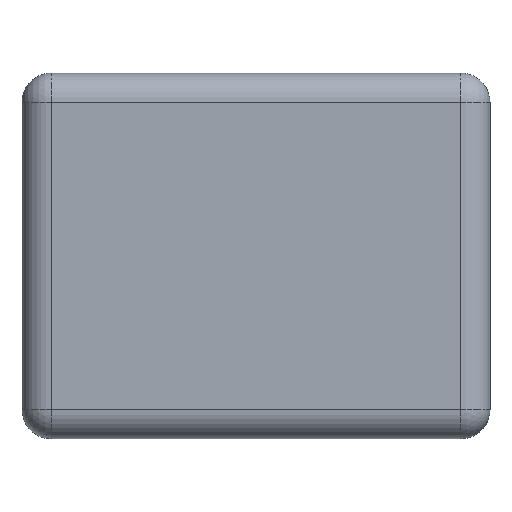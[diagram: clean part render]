
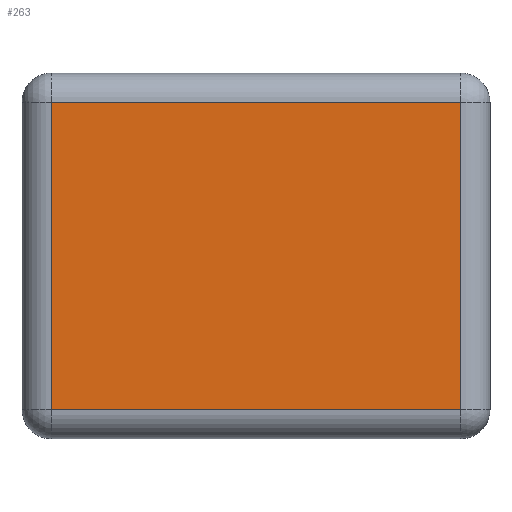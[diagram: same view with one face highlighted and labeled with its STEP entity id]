
A CAD part, top view. The second image highlights one B-rep face of the part: STEP entity #263.
In plain terms, the highlighted planar face has unit normal (0, 0, 1).
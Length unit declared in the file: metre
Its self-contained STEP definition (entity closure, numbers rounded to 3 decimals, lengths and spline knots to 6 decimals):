
#13=PLANE('',#310);
#18=LINE('',#417,#38);
#21=LINE('',#424,#41);
#22=LINE('',#437,#42);
#25=LINE('',#443,#45);
#38=VECTOR('',#329,1.);
#41=VECTOR('',#336,1.);
#42=VECTOR('',#353,1.);
#45=VECTOR('',#360,1.);
#118=ORIENTED_EDGE('',*,*,#156,.T.);
#119=ORIENTED_EDGE('',*,*,#146,.T.);
#120=ORIENTED_EDGE('',*,*,#142,.T.);
#121=ORIENTED_EDGE('',*,*,#152,.T.);
#142=EDGE_CURVE('',#174,#178,#18,.T.);
#146=EDGE_CURVE('',#179,#174,#21,.T.);
#152=EDGE_CURVE('',#178,#184,#22,.T.);
#156=EDGE_CURVE('',#184,#179,#25,.T.);
#174=VERTEX_POINT('',#408);
#178=VERTEX_POINT('',#416);
#179=VERTEX_POINT('',#421);
#184=VERTEX_POINT('',#436);
#223=EDGE_LOOP('',(#118,#119,#120,#121));
#241=FACE_BOUND('',#223,.T.);
#263=ADVANCED_FACE('',(#241),#13,.T.);
#310=AXIS2_PLACEMENT_3D('',#475,#395,#396);
#329=DIRECTION('',(1.,0.,0.));
#336=DIRECTION('',(0.,-1.,0.));
#353=DIRECTION('',(0.,1.,0.));
#360=DIRECTION('',(-1.,0.,0.));
#395=DIRECTION('',(0.,0.,1.));
#396=DIRECTION('',(0.,-1.,0.));
#408=CARTESIAN_POINT('',(-0.0036,-0.01005,0.0011));
#416=CARTESIAN_POINT('',(-0.0008,-0.01005,0.0011));
#417=CARTESIAN_POINT('',(-0.0008,-0.01005,0.0011));
#421=CARTESIAN_POINT('',(-0.0036,-0.00795,0.0011));
#424=CARTESIAN_POINT('',(-0.0036,-0.01005,0.0011));
#436=CARTESIAN_POINT('',(-0.0008,-0.00795,0.0011));
#437=CARTESIAN_POINT('',(-0.0008,-0.00795,0.0011));
#443=CARTESIAN_POINT('',(-0.0036,-0.00795,0.0011));
#475=CARTESIAN_POINT('',(-0.0022,-0.009,0.0011));
